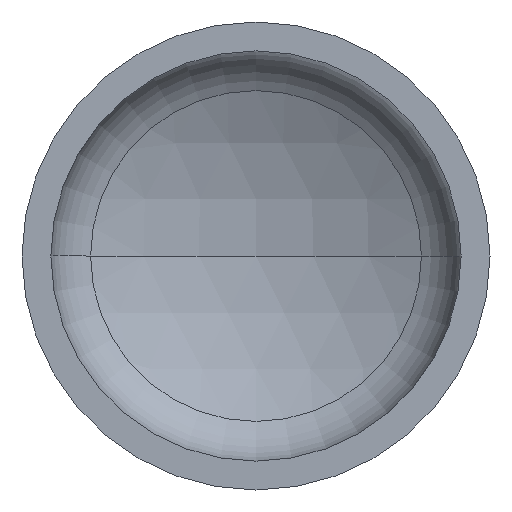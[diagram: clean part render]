
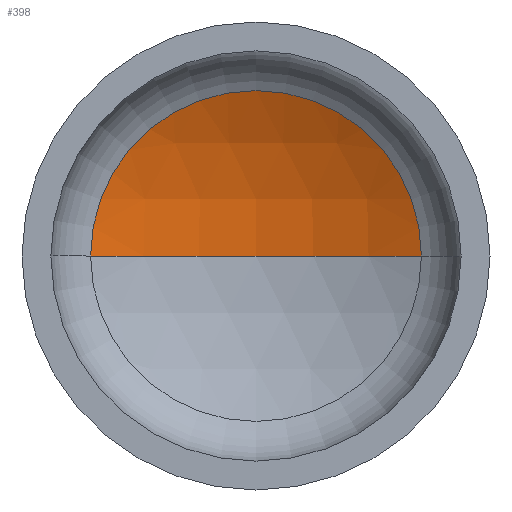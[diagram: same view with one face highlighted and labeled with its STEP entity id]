
A CAD part, front view. The second image highlights one B-rep face of the part: STEP entity #398.
In plain terms, the highlighted spherical face has radius 254 mm.
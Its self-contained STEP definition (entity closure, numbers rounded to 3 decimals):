
#6 = VERTEX_POINT ( 'NONE', #356 ) ;
#10 = ORIENTED_EDGE ( 'NONE', *, *, #318, .T. ) ;
#17 = ORIENTED_EDGE ( 'NONE', *, *, #324, .F. ) ;
#33 = VERTEX_POINT ( 'NONE', #215 ) ;
#42 = AXIS2_PLACEMENT_3D ( 'NONE', #179, #345, #202 ) ;
#48 = AXIS2_PLACEMENT_3D ( 'NONE', #269, #116, #289 ) ;
#56 = VERTEX_POINT ( 'NONE', #304 ) ;
#57 = AXIS2_PLACEMENT_3D ( 'NONE', #365, #223, #393 ) ;
#59 = EDGE_LOOP ( 'NONE', ( #17, #10, #81 ) ) ;
#81 = ORIENTED_EDGE ( 'NONE', *, *, #310, .T. ) ;
#116 = DIRECTION ( 'NONE',  ( 0., 0., -1. ) ) ;
#125 = DIRECTION ( 'NONE',  ( -1., 0., 0. ) ) ;
#179 = CARTESIAN_POINT ( 'NONE',  ( 0., -122.102, 0. ) ) ;
#181 = DIRECTION ( 'NONE',  ( 0., 0., -1. ) ) ;
#202 = DIRECTION ( 'NONE',  ( 1., 0., 0. ) ) ;
#215 = CARTESIAN_POINT ( 'NONE',  ( -114.487, 104.633, 0. ) ) ;
#223 = DIRECTION ( 'NONE',  ( 0., -1., 0. ) ) ;
#226 = CARTESIAN_POINT ( 'NONE',  ( 0., -122.102, 0. ) ) ;
#249 = FACE_OUTER_BOUND ( 'NONE', #59, .T. ) ;
#269 = CARTESIAN_POINT ( 'NONE',  ( 0., -122.102, 0. ) ) ;
#275 = CIRCLE ( 'NONE', #48, 254. ) ;
#289 = DIRECTION ( 'NONE',  ( -1., 0., 0. ) ) ;
#304 = CARTESIAN_POINT ( 'NONE',  ( 0., 131.898, 0. ) ) ;
#305 = SPHERICAL_SURFACE ( 'NONE', #391, 254. ) ;
#310 = EDGE_CURVE ( 'NONE', #6, #33, #402, .T. ) ;
#318 = EDGE_CURVE ( 'NONE', #56, #6, #275, .T. ) ;
#324 = EDGE_CURVE ( 'NONE', #56, #33, #331, .T. ) ;
#331 = CIRCLE ( 'NONE', #42, 254. ) ;
#345 = DIRECTION ( 'NONE',  ( 0., 0., 1. ) ) ;
#356 = CARTESIAN_POINT ( 'NONE',  ( 114.487, 104.633, 0. ) ) ;
#365 = CARTESIAN_POINT ( 'NONE',  ( 0., 104.633, 0. ) ) ;
#391 = AXIS2_PLACEMENT_3D ( 'NONE', #226, #181, #125 ) ;
#393 = DIRECTION ( 'NONE',  ( 1., 0., 0. ) ) ;
#398 = ADVANCED_FACE ( 'NONE', ( #249 ), #305, .F. ) ;
#402 = CIRCLE ( 'NONE', #57, 114.487 ) ;
